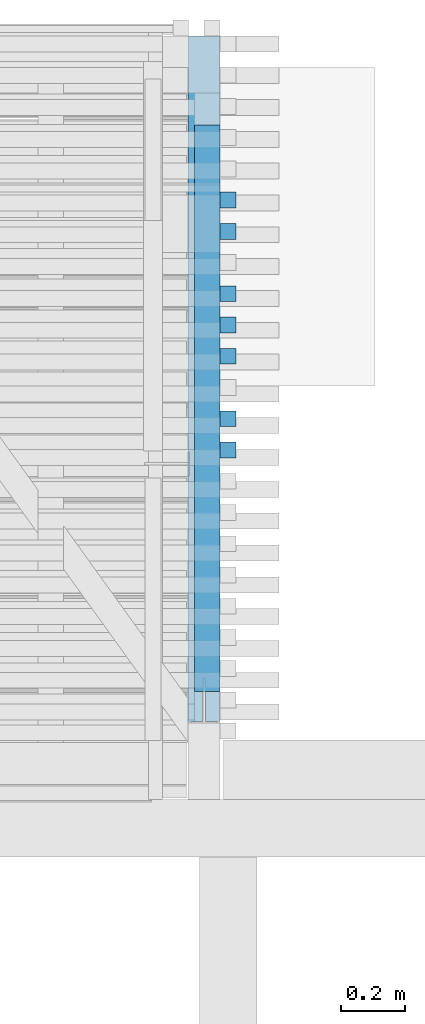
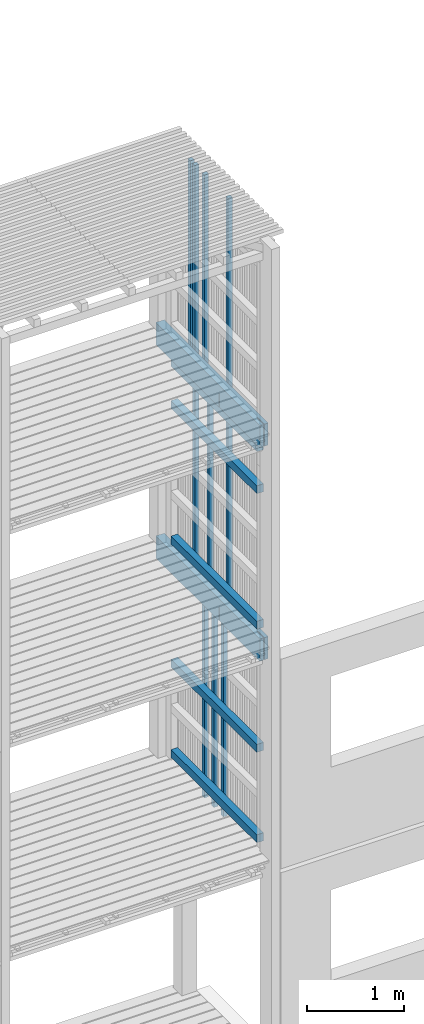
# One storey, part 55 of 182: 17 beams.
"""IFC2X3 building model written with IfcOpenShell, lengths in metres."""

from ifc_helpers import new_model, si_unit, frame, origin, place, context, project, spatial, faceted_brep, element, save


model = new_model("IFC2X3")

# Units and contexts
model_context = context("Model", 3, precision=1e-06, world=origin())
ifc_project = project(units=[si_unit("LENGTHUNIT", "METRE"), si_unit("PLANEANGLEUNIT", "RADIAN")], contexts=[model_context])

# Site, building, storey
site = spatial("IfcSite", under=ifc_project, CompositionType="ELEMENT")
building = spatial("IfcBuilding", under=site, CompositionType="ELEMENT")
storey = spatial("IfcBuildingStorey", under=building, Name="vs", CompositionType="ELEMENT", Elevation=-0.85)

# Beams
placement = place(None, origin())
beam_1_placement = place(placement, frame((16.67919731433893, 12.255986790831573, 7.974999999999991), z_axis=(-1.0, 0.0, 0.0), x_axis=(0.0, 0.0, 1.0)))
element("IfcBeam", 1, at=beam_1_placement, inside=storey, Name="Bardage", context=model_context, shape_type="Brep", body=[
    faceted_brep([(2.479999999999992, -0.025000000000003, 0.024999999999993), (2.479999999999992, -0.025000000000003, -0.025000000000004), (2.479999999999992, 0.025000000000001, -0.025000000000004), (2.479999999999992, 0.025000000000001, 0.024999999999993), (0.0, 0.025000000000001, 0.024999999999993), (0.0, -0.025000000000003, 0.024999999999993), (2.479999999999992, -0.025000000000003, 0.024999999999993), (2.479999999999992, 0.025000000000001, 0.024999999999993), (0.0, -0.025000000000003, 0.024999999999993), (0.0, 0.025000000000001, 0.024999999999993), (0.0, 0.025000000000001, -0.025000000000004), (0.0, -0.025000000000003, -0.025000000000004), (0.0, 0.025000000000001, -0.025000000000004), (0.0, 0.025000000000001, 0.024999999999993), (2.479999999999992, 0.025000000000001, 0.024999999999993), (2.479999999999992, 0.025000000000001, -0.025000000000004), (0.0, -0.025000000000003, -0.025000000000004), (0.0, 0.025000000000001, -0.025000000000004), (2.479999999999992, 0.025000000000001, -0.025000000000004), (2.479999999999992, -0.025000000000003, -0.025000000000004), (2.479999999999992, -0.025000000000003, 0.024999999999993), (0.0, -0.025000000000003, 0.024999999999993), (0.0, -0.025000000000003, -0.025000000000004), (2.479999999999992, -0.025000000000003, -0.025000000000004)], [[[0, 1, 2, 3]], [[4, 5, 6, 7]], [[8, 9, 10, 11]], [[12, 13, 14, 15]], [[16, 17, 18, 19]], [[20, 21, 22, 23]]]),
])
beam_2_placement = place(placement, frame((16.67919731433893, 11.666895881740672, 2.575000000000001), z_axis=(-1.0, 0.0, 0.0), x_axis=(0.0, 0.0, 1.0)))
element("IfcBeam", 2, at=beam_2_placement, inside=storey, Name="Bardage", context=model_context, shape_type="Brep", body=[
    faceted_brep([(0.0, -0.025000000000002, 0.024999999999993), (0.0, 0.024999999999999, 0.024999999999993), (0.0, 0.024999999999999, -0.025000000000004), (0.0, -0.025000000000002, -0.025000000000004), (2.699961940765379, 0.024999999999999, -0.025000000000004), (2.699961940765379, 0.024999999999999, 0.024999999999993), (2.699961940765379, -0.025000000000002, 0.024999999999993), (2.699961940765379, -0.025000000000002, -0.025000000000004), (0.0, -0.025000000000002, -0.025000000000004), (0.0, 0.024999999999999, -0.025000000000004), (2.699961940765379, 0.024999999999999, -0.025000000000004), (2.699961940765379, -0.025000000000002, -0.025000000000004), (2.699961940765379, 0.024999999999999, -0.025000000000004), (0.0, 0.024999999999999, -0.025000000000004), (0.0, 0.024999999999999, 0.024999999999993), (2.699961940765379, 0.024999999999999, 0.024999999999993), (2.699961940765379, 0.024999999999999, 0.024999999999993), (0.0, 0.024999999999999, 0.024999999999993), (0.0, -0.025000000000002, 0.024999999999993), (2.699961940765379, -0.025000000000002, 0.024999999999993), (2.699961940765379, -0.025000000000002, 0.024999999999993), (0.0, -0.025000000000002, 0.024999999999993), (0.0, -0.025000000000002, -0.025000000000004), (2.699961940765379, -0.025000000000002, -0.025000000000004)], [[[0, 1, 2, 3]], [[4, 5, 6, 7]], [[8, 9, 10, 11]], [[12, 13, 14, 15]], [[16, 17, 18, 19]], [[20, 21, 22, 23]]]),
])
beam_3_placement = place(placement, frame((16.67919731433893, 12.05962315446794, 2.575000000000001), z_axis=(-1.0, 0.0, 0.0), x_axis=(0.0, 0.0, 1.0)))
element("IfcBeam", 3, at=beam_3_placement, inside=storey, Name="Bardage", context=model_context, shape_type="Brep", body=[
    faceted_brep([(0.0, -0.025000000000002, 0.024999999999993), (0.0, 0.024999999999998, 0.024999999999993), (0.0, 0.024999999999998, -0.025000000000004), (0.0, -0.025000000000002, -0.025000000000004), (2.699961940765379, 0.024999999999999, -0.025000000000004), (2.699961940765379, 0.024999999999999, 0.024999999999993), (2.699961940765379, -0.025000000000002, 0.024999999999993), (2.699961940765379, -0.025000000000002, -0.025000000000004), (0.0, -0.025000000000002, -0.025000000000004), (0.0, 0.024999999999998, -0.025000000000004), (2.699961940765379, 0.024999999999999, -0.025000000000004), (2.699961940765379, -0.025000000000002, -0.025000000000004), (2.699961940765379, 0.024999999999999, -0.025000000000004), (0.0, 0.024999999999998, -0.025000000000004), (0.0, 0.024999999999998, 0.024999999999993), (2.699961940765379, 0.024999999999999, 0.024999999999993), (2.699961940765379, 0.024999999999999, 0.024999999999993), (0.0, 0.024999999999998, 0.024999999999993), (0.0, -0.025000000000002, 0.024999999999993), (2.699961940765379, -0.025000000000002, 0.024999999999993), (2.699961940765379, -0.025000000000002, 0.024999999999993), (0.0, -0.025000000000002, 0.024999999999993), (0.0, -0.025000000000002, -0.025000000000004), (2.699961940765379, -0.025000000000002, -0.025000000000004)], [[[0, 1, 2, 3]], [[4, 5, 6, 7]], [[8, 9, 10, 11]], [[12, 13, 14, 15]], [[16, 17, 18, 19]], [[20, 21, 22, 23]]]),
])
beam_4_placement = place(placement, frame((16.614197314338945, 10.810077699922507, 5.529999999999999), z_axis=(0.0, 0.0, 1.0), x_axis=(0.0, 1.0, 0.0)))
element("IfcBeam", 4, at=beam_4_placement, inside=storey, Name="Support bardage", context=model_context, shape_type="Brep", body=[
    faceted_brep([(1.779999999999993, -0.039999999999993, 0.05), (1.779999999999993, -0.039999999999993, -0.050000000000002), (1.779999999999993, 0.04000000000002, -0.050000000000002), (1.779999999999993, 0.04000000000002, 0.05), (-4e-15, -0.039999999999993, -0.050000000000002), (1.779999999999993, -0.039999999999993, -0.050000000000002), (1.779999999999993, -0.039999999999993, 0.05), (-4e-15, -0.039999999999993, 0.05), (-4e-15, 0.04000000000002, -0.050000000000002), (1.779999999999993, 0.04000000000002, -0.050000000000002), (1.779999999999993, -0.039999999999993, -0.050000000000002), (-4e-15, -0.039999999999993, -0.050000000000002), (-4e-15, 0.04000000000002, 0.05), (1.779999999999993, 0.04000000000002, 0.05), (1.779999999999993, 0.04000000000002, -0.050000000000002), (-4e-15, 0.04000000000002, -0.050000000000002), (-4e-15, -0.039999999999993, 0.05), (1.779999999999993, -0.039999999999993, 0.05), (1.779999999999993, 0.04000000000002, 0.05), (-4e-15, 0.04000000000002, 0.05), (-4e-15, -0.039999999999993, -0.050000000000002), (-4e-15, -0.039999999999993, 0.05), (-4e-15, 0.04000000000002, 0.05), (-4e-15, 0.04000000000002, -0.050000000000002)], [[[0, 1, 2, 3]], [[4, 5, 6, 7]], [[8, 9, 10, 11]], [[12, 13, 14, 15]], [[16, 17, 18, 19]], [[20, 21, 22, 23]]]),
])
beam_5_placement = place(placement, frame((16.67919731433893, 11.568714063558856, 5.274999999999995), z_axis=(-1.0, 0.0, 0.0), x_axis=(0.0, 0.0, 1.0)))
element("IfcBeam", 5, at=beam_5_placement, inside=storey, Name="Bardage", context=model_context, shape_type="Brep", body=[
    faceted_brep([(1e-15, -0.024999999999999, 0.024999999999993), (1e-15, 0.024999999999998, 0.024999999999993), (1e-15, 0.024999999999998, -0.025000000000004), (1e-15, -0.024999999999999, -0.025000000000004), (2.699999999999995, -0.024999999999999, -0.025000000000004), (2.699999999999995, 0.024999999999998, -0.025000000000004), (2.699999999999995, 0.024999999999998, 0.024999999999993), (2.699999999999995, -0.024999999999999, 0.024999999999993), (1e-15, -0.024999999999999, 0.024999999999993), (1e-15, -0.024999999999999, -0.025000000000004), (2.699999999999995, -0.024999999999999, -0.025000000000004), (2.699999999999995, -0.024999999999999, 0.024999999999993), (2.699999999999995, -0.024999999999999, -0.025000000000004), (1e-15, -0.024999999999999, -0.025000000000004), (1e-15, 0.024999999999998, -0.025000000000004), (2.699999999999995, 0.024999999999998, -0.025000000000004), (2.699999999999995, 0.024999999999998, -0.025000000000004), (1e-15, 0.024999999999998, -0.025000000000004), (1e-15, 0.024999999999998, 0.024999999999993), (2.699999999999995, 0.024999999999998, 0.024999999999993), (2.699999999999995, 0.024999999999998, 0.024999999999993), (1e-15, 0.024999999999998, 0.024999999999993), (1e-15, -0.024999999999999, 0.024999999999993), (2.699999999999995, -0.024999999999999, 0.024999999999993)], [[[0, 1, 2, 3]], [[4, 5, 6, 7]], [[8, 9, 10, 11]], [[12, 13, 14, 15]], [[16, 17, 18, 19]], [[20, 21, 22, 23]]]),
])
beam_6_placement = place(placement, frame((16.614197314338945, 10.810077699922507, 2.830000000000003), z_axis=(0.0, 0.0, 1.0), x_axis=(0.0, 1.0, 0.0)))
element("IfcBeam", 6, at=beam_6_placement, inside=storey, Name="Support bardage", context=model_context, shape_type="Brep", body=[
    faceted_brep([(1.779999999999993, -0.039999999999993, 0.05), (1.779999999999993, -0.039999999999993, -0.050000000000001), (1.779999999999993, 0.04000000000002, -0.050000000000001), (1.779999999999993, 0.04000000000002, 0.05), (-4e-15, -0.039999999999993, -0.050000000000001), (1.779999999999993, -0.039999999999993, -0.050000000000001), (1.779999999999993, -0.039999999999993, 0.05), (-4e-15, -0.039999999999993, 0.05), (-4e-15, 0.04000000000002, -0.050000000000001), (1.779999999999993, 0.04000000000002, -0.050000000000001), (1.779999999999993, -0.039999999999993, -0.050000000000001), (-4e-15, -0.039999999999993, -0.050000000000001), (-4e-15, 0.04000000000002, 0.05), (1.779999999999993, 0.04000000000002, 0.05), (1.779999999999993, 0.04000000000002, -0.050000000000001), (-4e-15, 0.04000000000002, -0.050000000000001), (-4e-15, -0.039999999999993, 0.05), (1.779999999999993, -0.039999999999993, 0.05), (1.779999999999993, 0.04000000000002, 0.05), (-4e-15, 0.04000000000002, 0.05), (-4e-15, -0.039999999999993, -0.050000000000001), (-4e-15, -0.039999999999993, 0.05), (-4e-15, 0.04000000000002, 0.05), (-4e-15, 0.04000000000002, -0.050000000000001)], [[[0, 1, 2, 3]], [[4, 5, 6, 7]], [[8, 9, 10, 11]], [[12, 13, 14, 15]], [[16, 17, 18, 19]], [[20, 21, 22, 23]]]),
])
beam_7_placement = place(placement, frame((16.67919731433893, 11.863259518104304, 2.575000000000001), z_axis=(-1.0, 0.0, 0.0), x_axis=(0.0, 0.0, 1.0)))
element("IfcBeam", 7, at=beam_7_placement, inside=storey, Name="Bardage", context=model_context, shape_type="Brep", body=[
    faceted_brep([(0.0, -0.024999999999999, 0.024999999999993), (0.0, 0.024999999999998, 0.024999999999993), (0.0, 0.024999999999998, -0.025000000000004), (0.0, -0.024999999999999, -0.025000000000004), (2.699961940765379, 0.024999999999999, -0.025000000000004), (2.699961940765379, 0.024999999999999, 0.024999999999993), (2.699961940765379, -0.024999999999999, 0.024999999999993), (2.699961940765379, -0.024999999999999, -0.025000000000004), (0.0, -0.024999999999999, -0.025000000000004), (0.0, 0.024999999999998, -0.025000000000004), (2.699961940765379, 0.024999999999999, -0.025000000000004), (2.699961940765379, -0.024999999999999, -0.025000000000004), (2.699961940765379, 0.024999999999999, -0.025000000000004), (0.0, 0.024999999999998, -0.025000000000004), (0.0, 0.024999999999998, 0.024999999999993), (2.699961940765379, 0.024999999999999, 0.024999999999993), (2.699961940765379, 0.024999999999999, 0.024999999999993), (0.0, 0.024999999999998, 0.024999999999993), (0.0, -0.024999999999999, 0.024999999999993), (2.699961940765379, -0.024999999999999, 0.024999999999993), (2.699961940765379, -0.024999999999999, 0.024999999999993), (0.0, -0.024999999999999, 0.024999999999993), (0.0, -0.024999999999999, -0.025000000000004), (2.699961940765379, -0.024999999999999, -0.025000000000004)], [[[0, 1, 2, 3]], [[4, 5, 6, 7]], [[8, 9, 10, 11]], [[12, 13, 14, 15]], [[16, 17, 18, 19]], [[20, 21, 22, 23]]]),
])
beam_8_placement = place(placement, frame((16.60419731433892, 10.715077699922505, 5.279999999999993), z_axis=(0.0, 0.0, 1.0), x_axis=(0.0, 1.0, 0.0)))
element("IfcBeam", 8, at=beam_8_placement, inside=storey, Name="Sommier", context=model_context, shape_type="Brep", body=[
    faceted_brep([(2.154999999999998, -0.050000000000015, -0.140000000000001), (2.154999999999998, -0.050000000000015, 0.140000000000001), (0.0, -0.050000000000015, 0.140000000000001), (0.0, -0.050000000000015, -0.140000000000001), (-4e-15, -0.004000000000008, 0.140000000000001), (0.0, -0.050000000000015, 0.140000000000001), (2.154999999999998, -0.050000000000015, 0.140000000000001), (2.154999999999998, 0.049999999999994, 0.140000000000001), (0.0, 0.049999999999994, 0.140000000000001), (-4e-15, 0.003999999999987, 0.140000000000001), (0.136999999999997, 0.003999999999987, 0.140000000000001), (0.136999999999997, -0.004000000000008, 0.140000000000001), (2.154999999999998, 0.049999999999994, 0.140000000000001), (2.154999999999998, -0.050000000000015, 0.140000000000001), (2.154999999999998, -0.050000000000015, -0.140000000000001), (2.154999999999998, 0.049999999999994, -0.140000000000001), (0.847999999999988, 0.044999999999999, -0.140000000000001), (0.771999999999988, 0.044999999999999, -0.140000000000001), (0.771999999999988, 0.044999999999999, 0.034999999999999), (0.847999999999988, 0.044999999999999, 0.034999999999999), (0.847999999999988, 0.044999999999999, 0.034999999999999), (0.771999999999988, 0.044999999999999, 0.034999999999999), (0.771999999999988, 0.049999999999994, 0.034999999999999), (0.847999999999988, 0.049999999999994, 0.034999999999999), (0.847999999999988, 0.049999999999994, -0.140000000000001), (0.847999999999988, 0.044999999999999, -0.140000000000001), (0.847999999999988, 0.044999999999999, 0.034999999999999), (0.847999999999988, 0.049999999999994, 0.034999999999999), (0.771999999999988, 0.044999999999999, 0.034999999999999), (0.771999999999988, 0.044999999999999, -0.140000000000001), (0.771999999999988, 0.049999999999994, -0.140000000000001), (0.771999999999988, 0.049999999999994, 0.034999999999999), (0.0, 0.049999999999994, 0.140000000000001), (2.154999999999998, 0.049999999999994, 0.140000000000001), (2.154999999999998, 0.049999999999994, -0.140000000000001), (0.847999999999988, 0.049999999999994, -0.140000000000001), (0.847999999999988, 0.049999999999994, 0.034999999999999), (0.771999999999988, 0.049999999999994, 0.034999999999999), (0.771999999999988, 0.049999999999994, -0.140000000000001), (0.0, 0.049999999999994, -0.140000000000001), (0.0, 0.003999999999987, -0.140000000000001), (-4e-15, 0.003999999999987, 0.140000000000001), (0.0, 0.049999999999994, 0.140000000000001), (0.0, 0.049999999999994, -0.140000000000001), (0.0, -0.050000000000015, 0.140000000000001), (-4e-15, -0.004000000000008, 0.140000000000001), (0.0, -0.004000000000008, -0.140000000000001), (0.0, -0.050000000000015, -0.140000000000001), (0.0, 0.049999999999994, -0.140000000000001), (0.771999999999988, 0.049999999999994, -0.140000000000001), (0.771999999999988, 0.044999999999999, -0.140000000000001), (0.847999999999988, 0.044999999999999, -0.140000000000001), (0.847999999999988, 0.049999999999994, -0.140000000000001), (2.154999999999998, 0.049999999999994, -0.140000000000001), (2.154999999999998, -0.050000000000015, -0.140000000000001), (0.0, -0.050000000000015, -0.140000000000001), (0.0, -0.004000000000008, -0.140000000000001), (0.136999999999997, -0.004000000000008, -0.140000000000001), (0.136999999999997, 0.003999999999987, -0.140000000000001), (0.0, 0.003999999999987, -0.140000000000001), (0.136999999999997, 0.003999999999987, -0.140000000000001), (0.136999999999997, -0.004000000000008, -0.140000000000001), (0.136999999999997, -0.004000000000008, 0.140000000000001), (0.136999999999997, 0.003999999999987, 0.140000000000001), (-4e-15, -0.004000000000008, 0.140000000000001), (0.136999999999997, -0.004000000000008, 0.140000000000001), (0.136999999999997, -0.004000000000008, -0.140000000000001), (0.0, -0.004000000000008, -0.140000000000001), (0.136999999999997, 0.003999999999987, 0.140000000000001), (-4e-15, 0.003999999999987, 0.140000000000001), (0.0, 0.003999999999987, -0.140000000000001), (0.136999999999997, 0.003999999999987, -0.140000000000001)], [[[0, 1, 2, 3]], [[4, 5, 6, 7, 8, 9, 10, 11]], [[12, 13, 14, 15]], [[16, 17, 18, 19]], [[20, 21, 22, 23]], [[24, 25, 26, 27]], [[28, 29, 30, 31]], [[32, 33, 34, 35, 36, 37, 38, 39]], [[40, 41, 42, 43]], [[44, 45, 46, 47]], [[48, 49, 50, 51, 52, 53, 54, 55, 56, 57, 58, 59]], [[60, 61, 62, 63]], [[64, 65, 66, 67]], [[68, 69, 70, 71]]]),
])
beam_9_placement = place(placement, frame((16.67919731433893, 12.255986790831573, 5.274999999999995), z_axis=(-1.0, 0.0, 0.0), x_axis=(0.0, 0.0, 1.0)))
element("IfcBeam", 9, at=beam_9_placement, inside=storey, Name="Bardage", context=model_context, shape_type="Brep", body=[
    faceted_brep([(1e-15, -0.025000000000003, 0.024999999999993), (1e-15, 0.025000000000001, 0.024999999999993), (1e-15, 0.025000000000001, -0.025000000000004), (1e-15, -0.025000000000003, -0.025000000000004), (2.699999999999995, -0.025000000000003, -0.025000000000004), (2.699999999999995, 0.025000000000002, -0.025000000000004), (2.699999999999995, 0.025000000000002, 0.024999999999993), (2.699999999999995, -0.025000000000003, 0.024999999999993), (1e-15, -0.025000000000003, 0.024999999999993), (1e-15, -0.025000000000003, -0.025000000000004), (2.699999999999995, -0.025000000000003, -0.025000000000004), (2.699999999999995, -0.025000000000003, 0.024999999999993), (2.699999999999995, -0.025000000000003, -0.025000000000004), (1e-15, -0.025000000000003, -0.025000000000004), (1e-15, 0.025000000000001, -0.025000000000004), (2.699999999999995, 0.025000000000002, -0.025000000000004), (2.699999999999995, 0.025000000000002, -0.025000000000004), (1e-15, 0.025000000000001, -0.025000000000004), (1e-15, 0.025000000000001, 0.024999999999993), (2.699999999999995, 0.025000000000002, 0.024999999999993), (2.699999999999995, 0.025000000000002, 0.024999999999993), (1e-15, 0.025000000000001, 0.024999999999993), (1e-15, -0.025000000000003, 0.024999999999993), (2.699999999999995, -0.025000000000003, 0.024999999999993)], [[[0, 1, 2, 3]], [[4, 5, 6, 7]], [[8, 9, 10, 11]], [[12, 13, 14, 15]], [[16, 17, 18, 19]], [[20, 21, 22, 23]]]),
])
beam_10_placement = place(placement, frame((16.614197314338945, 10.810077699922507, 7.774999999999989), z_axis=(0.0, 0.0, 1.0), x_axis=(0.0, 1.0, 0.0)))
element("IfcBeam", 10, at=beam_10_placement, inside=storey, Name="Support bardage", context=model_context, shape_type="Brep", body=[
    faceted_brep([(1.779999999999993, -0.039999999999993, 0.050000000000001), (1.779999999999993, -0.039999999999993, -0.050000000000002), (1.779999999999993, 0.04000000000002, -0.050000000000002), (1.779999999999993, 0.04000000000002, 0.050000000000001), (-4e-15, -0.039999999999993, -0.050000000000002), (1.779999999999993, -0.039999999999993, -0.050000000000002), (1.779999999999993, -0.039999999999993, 0.050000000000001), (-4e-15, -0.039999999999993, 0.050000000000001), (-4e-15, 0.04000000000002, -0.050000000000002), (1.779999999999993, 0.04000000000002, -0.050000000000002), (1.779999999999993, -0.039999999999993, -0.050000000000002), (-4e-15, -0.039999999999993, -0.050000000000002), (-4e-15, 0.04000000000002, 0.050000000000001), (1.779999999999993, 0.04000000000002, 0.050000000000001), (1.779999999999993, 0.04000000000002, -0.050000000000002), (-4e-15, 0.04000000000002, -0.050000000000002), (-4e-15, -0.039999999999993, 0.050000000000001), (1.779999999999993, -0.039999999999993, 0.050000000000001), (1.779999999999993, 0.04000000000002, 0.050000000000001), (-4e-15, 0.04000000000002, 0.050000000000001), (-4e-15, -0.039999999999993, -0.050000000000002), (-4e-15, -0.039999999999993, 0.050000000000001), (-4e-15, 0.04000000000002, 0.050000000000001), (-4e-15, 0.04000000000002, -0.050000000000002)], [[[0, 1, 2, 3]], [[4, 5, 6, 7]], [[8, 9, 10, 11]], [[12, 13, 14, 15]], [[16, 17, 18, 19]], [[20, 21, 22, 23]]]),
])
beam_11_placement = place(placement, frame((16.60419731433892, 10.715077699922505, 7.979999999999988), z_axis=(0.0, 0.0, 1.0), x_axis=(0.0, 1.0, 0.0)))
element("IfcBeam", 11, at=beam_11_placement, inside=storey, Name="Sommier", context=model_context, shape_type="Brep", body=[
    faceted_brep([(2.154999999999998, -0.050000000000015, -0.14), (2.154999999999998, -0.050000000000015, 0.140000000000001), (0.0, -0.050000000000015, 0.140000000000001), (0.0, -0.050000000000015, -0.14), (-4e-15, -0.004000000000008, 0.140000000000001), (0.0, -0.050000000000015, 0.140000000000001), (2.154999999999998, -0.050000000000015, 0.140000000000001), (2.154999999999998, 0.049999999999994, 0.140000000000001), (0.0, 0.049999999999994, 0.140000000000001), (-4e-15, 0.003999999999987, 0.140000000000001), (0.136999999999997, 0.003999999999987, 0.140000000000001), (0.136999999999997, -0.004000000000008, 0.140000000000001), (2.154999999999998, 0.049999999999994, 0.140000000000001), (2.154999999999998, -0.050000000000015, 0.140000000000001), (2.154999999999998, -0.050000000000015, -0.14), (2.154999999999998, 0.049999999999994, -0.14), (0.847999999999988, 0.044999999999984, -0.14), (0.771999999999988, 0.044999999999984, -0.14), (0.771999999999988, 0.044999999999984, 0.035000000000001), (0.847999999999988, 0.044999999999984, 0.035000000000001), (0.847999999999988, 0.044999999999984, 0.035000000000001), (0.771999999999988, 0.044999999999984, 0.035000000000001), (0.771999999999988, 0.049999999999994, 0.035000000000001), (0.847999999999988, 0.049999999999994, 0.035000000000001), (0.847999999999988, 0.049999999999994, -0.14), (0.847999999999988, 0.044999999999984, -0.14), (0.847999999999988, 0.044999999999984, 0.035000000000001), (0.847999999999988, 0.049999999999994, 0.035000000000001), (0.771999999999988, 0.044999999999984, 0.035000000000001), (0.771999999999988, 0.044999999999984, -0.14), (0.771999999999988, 0.049999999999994, -0.14), (0.771999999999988, 0.049999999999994, 0.035000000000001), (0.0, 0.049999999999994, 0.140000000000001), (2.154999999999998, 0.049999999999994, 0.140000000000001), (2.154999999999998, 0.049999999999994, -0.14), (0.847999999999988, 0.049999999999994, -0.14), (0.847999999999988, 0.049999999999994, 0.035000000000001), (0.771999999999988, 0.049999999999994, 0.035000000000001), (0.771999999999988, 0.049999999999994, -0.14), (0.0, 0.049999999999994, -0.14), (0.0, 0.003999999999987, -0.14), (-4e-15, 0.003999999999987, 0.140000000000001), (0.0, 0.049999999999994, 0.140000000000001), (0.0, 0.049999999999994, -0.14), (0.0, -0.050000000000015, 0.140000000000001), (-4e-15, -0.004000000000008, 0.140000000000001), (0.0, -0.004000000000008, -0.14), (0.0, -0.050000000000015, -0.14), (0.0, 0.049999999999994, -0.14), (0.771999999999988, 0.049999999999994, -0.14), (0.771999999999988, 0.044999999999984, -0.14), (0.847999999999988, 0.044999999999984, -0.14), (0.847999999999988, 0.049999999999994, -0.14), (2.154999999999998, 0.049999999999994, -0.14), (2.154999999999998, -0.050000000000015, -0.14), (0.0, -0.050000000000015, -0.14), (0.0, -0.004000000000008, -0.14), (0.136999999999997, -0.004000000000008, -0.14), (0.136999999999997, 0.003999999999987, -0.14), (0.0, 0.003999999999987, -0.14), (0.136999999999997, 0.003999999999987, -0.14), (0.136999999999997, -0.004000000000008, -0.14), (0.136999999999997, -0.004000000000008, 0.140000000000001), (0.136999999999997, 0.003999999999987, 0.140000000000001), (-4e-15, -0.004000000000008, 0.140000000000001), (0.136999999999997, -0.004000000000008, 0.140000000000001), (0.136999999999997, -0.004000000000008, -0.14), (0.0, -0.004000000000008, -0.14), (0.136999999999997, 0.003999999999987, 0.140000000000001), (-4e-15, 0.003999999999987, 0.140000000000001), (0.0, 0.003999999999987, -0.14), (0.136999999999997, 0.003999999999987, -0.14)], [[[0, 1, 2, 3]], [[4, 5, 6, 7, 8, 9, 10, 11]], [[12, 13, 14, 15]], [[16, 17, 18, 19]], [[20, 21, 22, 23]], [[24, 25, 26, 27]], [[28, 29, 30, 31]], [[32, 33, 34, 35, 36, 37, 38, 39]], [[40, 41, 42, 43]], [[44, 45, 46, 47]], [[48, 49, 50, 51, 52, 53, 54, 55, 56, 57, 58, 59]], [[60, 61, 62, 63]], [[64, 65, 66, 67]], [[68, 69, 70, 71]]]),
])
beam_12_placement = place(placement, frame((16.614197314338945, 10.810077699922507, 3.972499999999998), z_axis=(0.0, 0.0, 1.0), x_axis=(0.0, 1.0, 0.0)))
element("IfcBeam", 12, at=beam_12_placement, inside=storey, Name="Support bardage", context=model_context, shape_type="Brep", body=[
    faceted_brep([(1.779999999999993, -0.039999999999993, 0.050000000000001), (1.779999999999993, -0.039999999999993, -0.050000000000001), (1.779999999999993, 0.04000000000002, -0.050000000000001), (1.779999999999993, 0.04000000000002, 0.050000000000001), (-4e-15, -0.039999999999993, -0.050000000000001), (1.779999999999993, -0.039999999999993, -0.050000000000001), (1.779999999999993, -0.039999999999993, 0.050000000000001), (-4e-15, -0.039999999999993, 0.050000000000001), (-4e-15, 0.04000000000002, -0.050000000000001), (1.779999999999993, 0.04000000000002, -0.050000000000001), (1.779999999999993, -0.039999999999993, -0.050000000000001), (-4e-15, -0.039999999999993, -0.050000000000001), (-4e-15, 0.04000000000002, 0.050000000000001), (1.779999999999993, 0.04000000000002, 0.050000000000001), (1.779999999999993, 0.04000000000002, -0.050000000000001), (-4e-15, 0.04000000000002, -0.050000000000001), (-4e-15, -0.039999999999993, 0.050000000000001), (1.779999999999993, -0.039999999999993, 0.050000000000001), (1.779999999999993, 0.04000000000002, 0.050000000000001), (-4e-15, 0.04000000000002, 0.050000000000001), (-4e-15, -0.039999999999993, -0.050000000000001), (-4e-15, -0.039999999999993, 0.050000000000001), (-4e-15, 0.04000000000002, 0.050000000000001), (-4e-15, 0.04000000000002, -0.050000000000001)], [[[0, 1, 2, 3]], [[4, 5, 6, 7]], [[8, 9, 10, 11]], [[12, 13, 14, 15]], [[16, 17, 18, 19]], [[20, 21, 22, 23]]]),
])
beam_13_placement = place(placement, frame((16.67919731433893, 12.354168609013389, 7.974999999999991), z_axis=(-1.0, 0.0, 0.0), x_axis=(0.0, 0.0, 1.0)))
element("IfcBeam", 13, at=beam_13_placement, inside=storey, Name="Bardage", context=model_context, shape_type="Brep", body=[
    faceted_brep([(2.479999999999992, -0.024999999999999, 0.024999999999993), (2.479999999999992, -0.024999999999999, -0.025000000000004), (2.479999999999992, 0.024999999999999, -0.025000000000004), (2.479999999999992, 0.024999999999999, 0.024999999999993), (0.0, 0.024999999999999, 0.024999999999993), (0.0, -0.024999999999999, 0.024999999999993), (2.479999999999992, -0.024999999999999, 0.024999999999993), (2.479999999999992, 0.024999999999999, 0.024999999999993), (0.0, -0.024999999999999, 0.024999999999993), (0.0, 0.024999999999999, 0.024999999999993), (0.0, 0.024999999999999, -0.025000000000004), (0.0, -0.024999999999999, -0.025000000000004), (0.0, 0.024999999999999, -0.025000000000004), (0.0, 0.024999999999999, 0.024999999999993), (2.479999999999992, 0.024999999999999, 0.024999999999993), (2.479999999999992, 0.024999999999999, -0.025000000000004), (0.0, -0.024999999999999, -0.025000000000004), (0.0, 0.024999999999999, -0.025000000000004), (2.479999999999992, 0.024999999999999, -0.025000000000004), (2.479999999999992, -0.024999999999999, -0.025000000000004), (2.479999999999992, -0.024999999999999, 0.024999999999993), (0.0, -0.024999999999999, 0.024999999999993), (0.0, -0.024999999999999, -0.025000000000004), (2.479999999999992, -0.024999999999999, -0.025000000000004)], [[[0, 1, 2, 3]], [[4, 5, 6, 7]], [[8, 9, 10, 11]], [[12, 13, 14, 15]], [[16, 17, 18, 19]], [[20, 21, 22, 23]]]),
])
beam_14_placement = place(placement, frame((16.67919731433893, 11.568714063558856, 7.974999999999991), z_axis=(-1.0, 0.0, 0.0), x_axis=(0.0, 0.0, 1.0)))
element("IfcBeam", 14, at=beam_14_placement, inside=storey, Name="Bardage", context=model_context, shape_type="Brep", body=[
    faceted_brep([(2.479999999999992, -0.024999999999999, 0.024999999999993), (2.479999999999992, -0.024999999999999, -0.025000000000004), (2.479999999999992, 0.024999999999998, -0.025000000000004), (2.479999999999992, 0.024999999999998, 0.024999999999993), (0.0, 0.024999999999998, 0.024999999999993), (0.0, -0.024999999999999, 0.024999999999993), (2.479999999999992, -0.024999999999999, 0.024999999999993), (2.479999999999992, 0.024999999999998, 0.024999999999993), (0.0, -0.024999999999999, 0.024999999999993), (0.0, 0.024999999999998, 0.024999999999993), (0.0, 0.024999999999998, -0.025000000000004), (0.0, -0.024999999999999, -0.025000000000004), (0.0, 0.024999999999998, -0.025000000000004), (0.0, 0.024999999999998, 0.024999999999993), (2.479999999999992, 0.024999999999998, 0.024999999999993), (2.479999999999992, 0.024999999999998, -0.025000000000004), (0.0, -0.024999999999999, -0.025000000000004), (0.0, 0.024999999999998, -0.025000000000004), (2.479999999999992, 0.024999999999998, -0.025000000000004), (2.479999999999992, -0.024999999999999, -0.025000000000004), (2.479999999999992, -0.024999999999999, 0.024999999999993), (0.0, -0.024999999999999, 0.024999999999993), (0.0, -0.024999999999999, -0.025000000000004), (2.479999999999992, -0.024999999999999, -0.025000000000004)], [[[0, 1, 2, 3]], [[4, 5, 6, 7]], [[8, 9, 10, 11]], [[12, 13, 14, 15]], [[16, 17, 18, 19]], [[20, 21, 22, 23]]]),
])
beam_15_placement = place(placement, frame((16.614197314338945, 10.810077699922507, 7.24374999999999), z_axis=(0.0, 0.0, 1.0), x_axis=(0.0, 1.0, 0.0)))
element("IfcBeam", 15, at=beam_15_placement, inside=storey, Name="Support bardage", context=model_context, shape_type="Brep", body=[
    faceted_brep([(1.779999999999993, -0.039999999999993, 0.050000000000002), (1.779999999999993, -0.039999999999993, -0.049999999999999), (1.779999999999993, 0.04000000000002, -0.049999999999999), (1.779999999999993, 0.04000000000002, 0.050000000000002), (-4e-15, -0.039999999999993, -0.049999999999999), (1.779999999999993, -0.039999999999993, -0.049999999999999), (1.779999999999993, -0.039999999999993, 0.050000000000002), (-4e-15, -0.039999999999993, 0.050000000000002), (-4e-15, 0.04000000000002, -0.049999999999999), (1.779999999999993, 0.04000000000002, -0.049999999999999), (1.779999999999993, -0.039999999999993, -0.049999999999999), (-4e-15, -0.039999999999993, -0.049999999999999), (-4e-15, 0.04000000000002, 0.050000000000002), (1.779999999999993, 0.04000000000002, 0.050000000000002), (1.779999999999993, 0.04000000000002, -0.049999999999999), (-4e-15, 0.04000000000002, -0.049999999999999), (-4e-15, -0.039999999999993, 0.050000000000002), (1.779999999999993, -0.039999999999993, 0.050000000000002), (1.779999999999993, 0.04000000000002, 0.050000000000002), (-4e-15, 0.04000000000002, 0.050000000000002), (-4e-15, -0.039999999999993, -0.049999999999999), (-4e-15, -0.039999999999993, 0.050000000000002), (-4e-15, 0.04000000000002, 0.050000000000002), (-4e-15, 0.04000000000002, -0.049999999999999)], [[[0, 1, 2, 3]], [[4, 5, 6, 7]], [[8, 9, 10, 11]], [[12, 13, 14, 15]], [[16, 17, 18, 19]], [[20, 21, 22, 23]]]),
])
beam_16_placement = place(placement, frame((16.67919731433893, 12.05962315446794, 7.974999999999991), z_axis=(-1.0, 0.0, 0.0), x_axis=(0.0, 0.0, 1.0)))
element("IfcBeam", 16, at=beam_16_placement, inside=storey, Name="Bardage", context=model_context, shape_type="Brep", body=[
    faceted_brep([(2.479999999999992, -0.025000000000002, 0.024999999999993), (2.479999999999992, -0.025000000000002, -0.025000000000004), (2.479999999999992, 0.024999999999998, -0.025000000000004), (2.479999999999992, 0.024999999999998, 0.024999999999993), (0.0, 0.024999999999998, 0.024999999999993), (0.0, -0.025000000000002, 0.024999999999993), (2.479999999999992, -0.025000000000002, 0.024999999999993), (2.479999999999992, 0.024999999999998, 0.024999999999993), (0.0, -0.025000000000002, 0.024999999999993), (0.0, 0.024999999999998, 0.024999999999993), (0.0, 0.024999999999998, -0.025000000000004), (0.0, -0.025000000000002, -0.025000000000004), (0.0, 0.024999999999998, -0.025000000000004), (0.0, 0.024999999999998, 0.024999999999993), (2.479999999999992, 0.024999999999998, 0.024999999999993), (2.479999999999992, 0.024999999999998, -0.025000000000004), (0.0, -0.025000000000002, -0.025000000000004), (0.0, 0.024999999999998, -0.025000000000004), (2.479999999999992, 0.024999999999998, -0.025000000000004), (2.479999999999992, -0.025000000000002, -0.025000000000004), (2.479999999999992, -0.025000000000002, 0.024999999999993), (0.0, -0.025000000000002, 0.024999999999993), (0.0, -0.025000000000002, -0.025000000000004), (2.479999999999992, -0.025000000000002, -0.025000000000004)], [[[0, 1, 2, 3]], [[4, 5, 6, 7]], [[8, 9, 10, 11]], [[12, 13, 14, 15]], [[16, 17, 18, 19]], [[20, 21, 22, 23]]]),
])
beam_17_placement = place(placement, frame((16.67919731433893, 11.961441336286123, 5.274999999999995), z_axis=(-1.0, 0.0, 0.0), x_axis=(0.0, 0.0, 1.0)))
element("IfcBeam", 17, at=beam_17_placement, inside=storey, Name="Bardage", context=model_context, shape_type="Brep", body=[
    faceted_brep([(1e-15, -0.025000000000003, 0.024999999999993), (1e-15, 0.024999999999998, 0.024999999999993), (1e-15, 0.024999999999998, -0.025000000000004), (1e-15, -0.025000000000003, -0.025000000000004), (2.699999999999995, -0.025000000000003, -0.025000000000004), (2.699999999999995, 0.024999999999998, -0.025000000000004), (2.699999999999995, 0.024999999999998, 0.024999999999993), (2.699999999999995, -0.025000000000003, 0.024999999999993), (1e-15, -0.025000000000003, 0.024999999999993), (1e-15, -0.025000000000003, -0.025000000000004), (2.699999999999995, -0.025000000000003, -0.025000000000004), (2.699999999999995, -0.025000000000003, 0.024999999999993), (2.699999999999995, -0.025000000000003, -0.025000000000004), (1e-15, -0.025000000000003, -0.025000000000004), (1e-15, 0.024999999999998, -0.025000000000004), (2.699999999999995, 0.024999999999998, -0.025000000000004), (2.699999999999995, 0.024999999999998, -0.025000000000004), (1e-15, 0.024999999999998, -0.025000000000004), (1e-15, 0.024999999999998, 0.024999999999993), (2.699999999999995, 0.024999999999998, 0.024999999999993), (2.699999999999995, 0.024999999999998, 0.024999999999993), (1e-15, 0.024999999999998, 0.024999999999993), (1e-15, -0.025000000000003, 0.024999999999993), (2.699999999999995, -0.025000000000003, 0.024999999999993)], [[[0, 1, 2, 3]], [[4, 5, 6, 7]], [[8, 9, 10, 11]], [[12, 13, 14, 15]], [[16, 17, 18, 19]], [[20, 21, 22, 23]]]),
])

save(model, "model.ifc")
